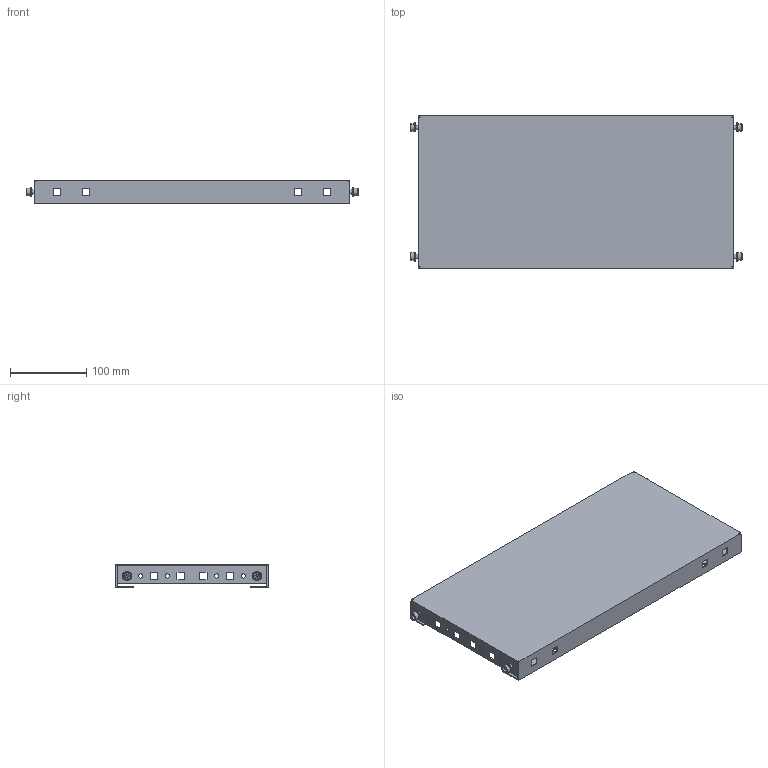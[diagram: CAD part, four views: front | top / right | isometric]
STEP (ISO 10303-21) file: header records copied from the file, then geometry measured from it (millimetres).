
FILE_DESCRIPTION(('Open CASCADE Model'),'2;1');
FILE_NAME('Open CASCADE Shape Model','2025-02-07T17:53:33',('Author'),( 'Open CASCADE'),'Open CASCADE STEP processor 7.8','Open CASCADE 7.8' ,'Unknown');
FILE_SCHEMA(('AUTOMOTIVE_DESIGN { 1 0 10303 214 1 1 1 1 }'));
Length unit declared in the file: millimetre
Products named in the file (5): Compound1; Solid1; Solid2; Solid3; Solid4
Assembly tree (13 placements, depth 2):
  Compound1
    Solid1
    Solid2  x4
    Solid3  x4
    Solid4  x4
Bounding box: 436.2 x 200 x 30 mm (x, y, z)
Volume: 201418.3 mm3; surface area: 272823.2 mm2
Topology: 13 solids, 13 shells, 748 faces, 2090 edges, 1360 vertices
Faces by surface type: plane 402, cylinder 282, cone 32, bspline 16, torus 16
Full cylindrical faces by diameter (mm): 5.5 x8, 6.5 x34
Entity records: 24043 total; most frequent: CARTESIAN_POINT 15593, ORIENTED_EDGE 1788, DIRECTION 1600, EDGE_CURVE 894, VERTEX_POINT 589, LINE 570, VECTOR 570, AXIS2_PLACEMENT_3D 515
